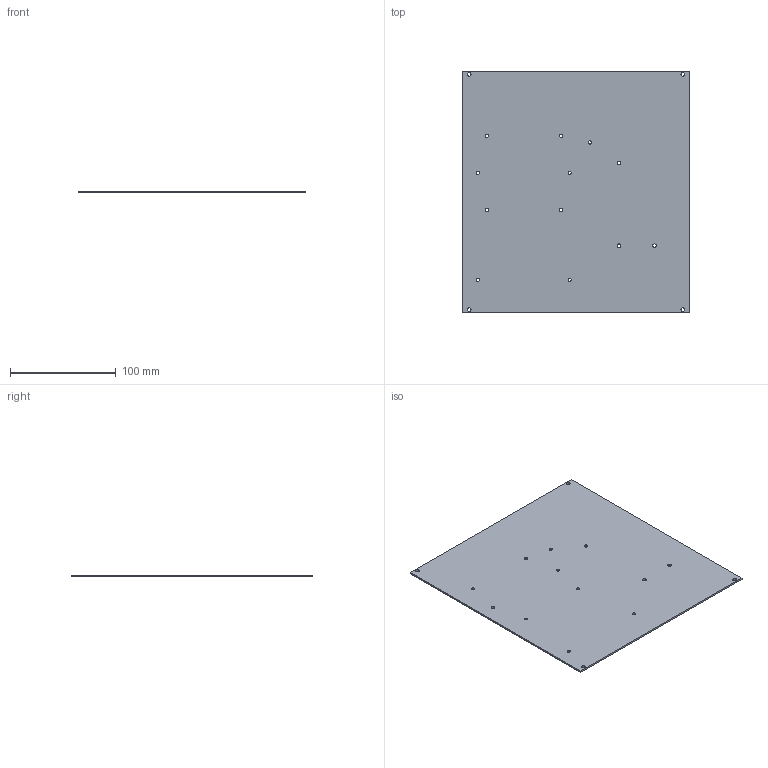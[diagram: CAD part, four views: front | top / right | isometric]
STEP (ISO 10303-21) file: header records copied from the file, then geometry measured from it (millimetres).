
FILE_DESCRIPTION (( 'STEP AP214' ), '1' );
FILE_NAME ('萇雄疏え_菁啣_V1.STEP', '2026-06-22T03:11:50', ( '' ), ( '' ), 'SwSTEP 2.0', 'SolidWorks 2022', '' );
FILE_SCHEMA (( 'AUTOMOTIVE_DESIGN' ));
Length unit declared in the file: millimetre
Products named in the file (1): 电动波片_底板_V1
Bounding box: 215 x 228 x 1.6 mm (x, y, z)
Volume: 78222.5 mm3; surface area: 99454.5 mm2
Topology: 1 solids, 1 shells, 38 faces, 108 edges, 72 vertices
Faces by surface type: cylinder 32, plane 6
Entity records: 1374 total; most frequent: DIRECTION 250, CARTESIAN_POINT 219, ORIENTED_EDGE 216, EDGE_CURVE 108, AXIS2_PLACEMENT_3D 103, VERTEX_POINT 72, EDGE_LOOP 70, CIRCLE 64
